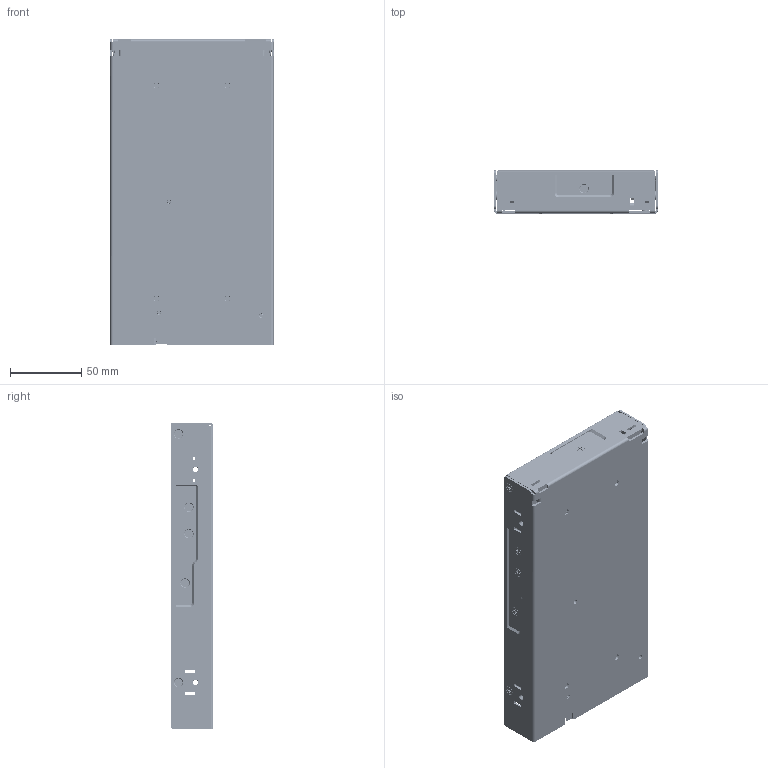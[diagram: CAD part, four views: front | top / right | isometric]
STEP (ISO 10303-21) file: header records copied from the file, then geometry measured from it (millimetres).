
FILE_DESCRIPTION (( 'STEP AP214' ), '1' );
FILE_NAME ('LCW320-C.STEP', '2021-08-31T14:59:41', ( '' ), ( '' ), 'SwSTEP 2.0', 'SolidWorks 2020', '' );
FILE_SCHEMA (( 'AUTOMOTIVE_DESIGN' ));
Length unit declared in the file: millimetre
Products named in the file (109): LCW320-C_ASM_1_ASM_1_ASM_1_1; M3X8_16_1_1_1; M4-7-75SCREW_5_1_1_1_2; DC49B-TERMINAL00_3_1_3_1_7-1; M40001_4_1_1_1_7; M40001_4_1_1_1_2-1; M40001_4_1_1_1; M40001_4_1_1_1_4; DC49H-HOUSING0001_12_1_1_1; M40001_4_1_1_1_3; OTHERS_ASM_4_ASM_1_ASM_1_1; DC49B-TERMINAL00_3_1_3_1_5-1; SCREW_5_1_1_1_1; DP_2_1_1_1; SCREW_YT_1_1_1_5; DC49B-TERMINAL00_3_1_3_1; M4-7-75SCREW_5_1_1_1_3; M4-7-75SCREW_5_1_1_1_6; LCW320-C_ASM_1_ASM_1_ASM_1_ASM_1_1; M4-7-75SCREW_5_1_1_1_7; DC49B-TERMINAL00_3_1_3_1_2; DC49B-TERMINAL00_3_1_3_1_4; M40001_4_1_1_1_8; DC49B-TERMINAL00_3_1_3_1_1; TH_5_1_1_1-2; DC49B-TERMINAL00_3_1_3_1_3; M4-7-75SCREW_5_1_1_1_8; DC49B-TERMINAL00_3_1_3_1_5; SCREW_5_1_1_1_1_2; DC49B-TERMINAL00_3_1_3_1_6-1; M40001_4_1_1_1_1-1; LCW320-C; M40001_4_1_1_1-1; M40001_4_1_1_1_6; M40001_4_1_1_1_2; DP_2_1_1_1-1; DC49B-TERMINAL00_3_1_3_1_3-1; PRT0062_1_1_1; FAN_1_ASM_1_ASM_1_1; DC49B-TERMINAL00_3_1_3_1_8-1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
Assembly tree (108 placements, depth 5):
  LCW320-C
    LCW320-C_CASE_ASM_1_ASM_1_ASM_1_1
      LCW320-C_ASM_1_ASM_1_ASM_1_ASM_1_1
        CHASSIS_LCW320-C_9_10_1_1
        SCREW_5_1_1_1_1
        SCREW_5_1_1_1_1_1
        SCREW_5_1_1_1_1_2
      LCW320-C_ASM_1_ASM_1_ASM_1_1
        11020113_LM350-10BXX_M_-A_1_1_1
        FAN_1_ASM_1_ASM_1_1
          MANIFOLD_SOLID_BREP_43604_1_1
          MANIFOLD_SOLID_BREP_43692_1_1
        SCREW_FAN_1_1_1
        SCREW_FAN_1_1_1_1
    LCW320-C_V1_0518_ASM_3_ASM__1
      LCW320_ASM_1_ASM_1_ASM_1_1
        PRT0038_2_1_1
        PRT0062_1_1_1
        PRT0070_1_1_1
      DC49HB-950_ASM_6_ASM_1_ASM_1_AS_1
        DC49H-HOUSING0001_12_1_1_1
        M40001_4_1_1_1
          M40001_4_1_1_1
          M40001_4_1_1_1-1
        DC49B-TERMINAL00_3_1_3_1
          DC49B-TERMINAL00_3_1_3_1
          DC49B-TERMINAL00_3_1_3_1-1
        M4-7-75SCREW_5_1_1_1
        M40001_4_1_1_1_1
          M40001_4_1_1_1_1
          M40001_4_1_1_1_1-1
        DC49B-TERMINAL00_3_1_3_1_1
          DC49B-TERMINAL00_3_1_3_1_1
          DC49B-TERMINAL00_3_1_3_1_1-1
        M4-7-75SCREW_5_1_1_1_1
        M40001_4_1_1_1_2
          M40001_4_1_1_1_2
          M40001_4_1_1_1_2-1
        DC49B-TERMINAL00_3_1_3_1_2
          DC49B-TERMINAL00_3_1_3_1_2
          DC49B-TERMINAL00_3_1_3_1_2-1
        M4-7-75SCREW_5_1_1_1_2
        M40001_4_1_1_1_3
          M40001_4_1_1_1_3
          M40001_4_1_1_1_3-1
        DC49B-TERMINAL00_3_1_3_1_3
          DC49B-TERMINAL00_3_1_3_1_3
          DC49B-TERMINAL00_3_1_3_1_3-1
        M4-7-75SCREW_5_1_1_1_3
        M40001_4_1_1_1_4
          M40001_4_1_1_1_4
          M40001_4_1_1_1_4-1
        DC49B-TERMINAL00_3_1_3_1_4
          DC49B-TERMINAL00_3_1_3_1_4
          DC49B-TERMINAL00_3_1_3_1_4-1
        M4-7-75SCREW_5_1_1_1_4
        M40001_4_1_1_1_5
          M40001_4_1_1_1_5
          M40001_4_1_1_1_5-1
        DC49B-TERMINAL00_3_1_3_1_5
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Bounding box: 115 x 30 x 215 mm (x, y, z)
Volume: 138061 mm3; surface area: 260207.1 mm2
Topology: 66 solids, 97 shells, 5805 faces, 17129 edges, 11426 vertices
Faces by surface type: plane 3099, cylinder 1848, bspline 414, cone 366, torus 78
Full cylindrical faces by diameter (mm): 2.85 x1
Entity records: 272464 total; most frequent: CARTESIAN_POINT 123247, ORIENTED_EDGE 34068, DIRECTION 24548, EDGE_CURVE 17128, VERTEX_POINT 11449, LINE 9282, VECTOR 9282, AXIS2_PLACEMENT_3D 7633
